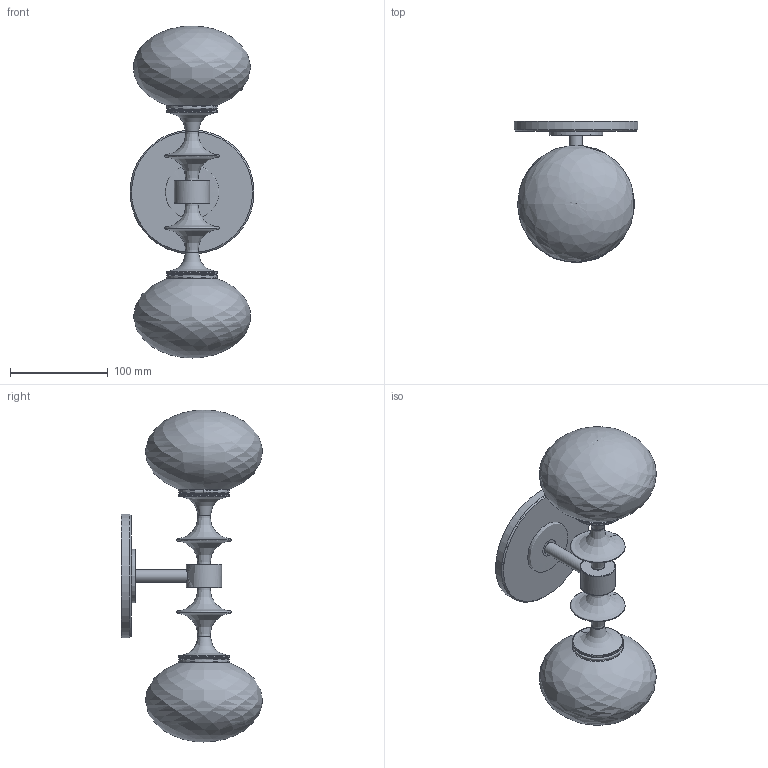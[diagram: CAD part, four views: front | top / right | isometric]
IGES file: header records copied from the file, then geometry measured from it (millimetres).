
Global section: file name: /Users/danielszollosi/Documents/SkLO/DEVELOPMENT/AVROKO/untitled folder/3D models/SkLO_AvroKO_PerlaSconce_Profile2_LT627_3D.igs; native system: Rhinoceros ( Dec  3 2024 ); preprocessor: Trout Lake IGES 012 Dec  3 2024; date: 250804.125918; units: millimetre
Bounding box: 126.95 x 144.5 x 340 mm (x, y, z)
Surface area: 238795.2 mm2 (no closed solid volume)
Topology: 0 solids, 0 shells, 185 faces, 932 edges, 763 vertices
Faces by surface type: bspline 185
